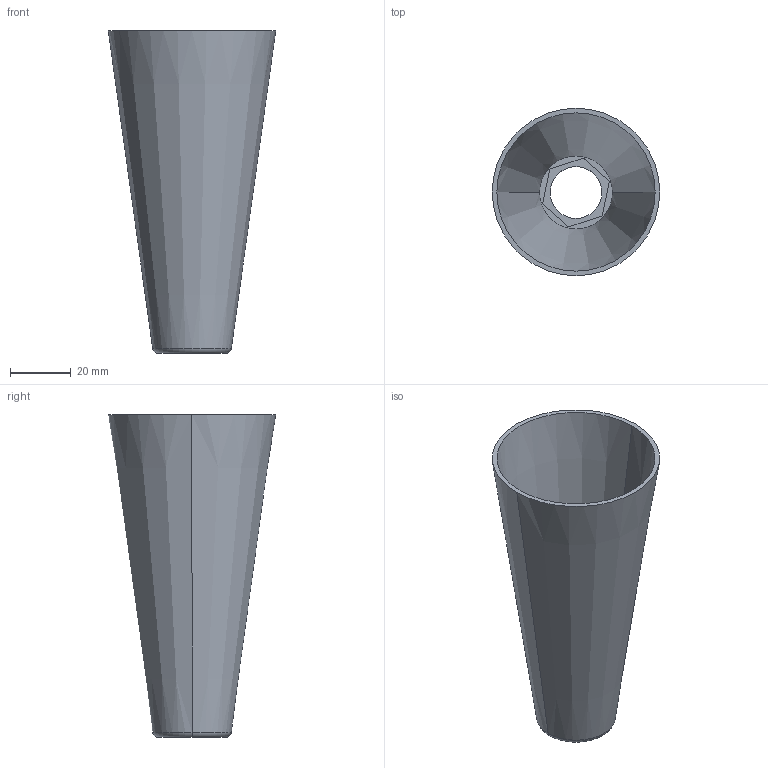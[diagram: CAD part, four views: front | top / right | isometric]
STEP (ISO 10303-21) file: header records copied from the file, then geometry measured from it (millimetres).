
FILE_DESCRIPTION (( 'STEP AP203' ), '1' );
FILE_NAME ('Âîðîíêà.STEP', '2021-04-07T15:05:04', ( '' ), ( '' ), 'SwSTEP 2.0', 'SolidWorks 2020', '' );
FILE_SCHEMA (( 'CONFIG_CONTROL_DESIGN' ));
Length unit declared in the file: millimetre
Products named in the file (1): Âîðîíêà
Bounding box: 55.03 x 55.03 x 106 mm (x, y, z)
Volume: 20267.7 mm3; surface area: 26643.7 mm2
Topology: 1 solids, 1 shells, 18 faces, 40 edges, 26 vertices
Faces by surface type: plane 10, cone 4, torus 2, cylinder 2
Entity records: 585 total; most frequent: DIRECTION 94, CARTESIAN_POINT 85, ORIENTED_EDGE 80, EDGE_CURVE 40, AXIS2_PLACEMENT_3D 35, VERTEX_POINT 26, LINE 24, VECTOR 24
